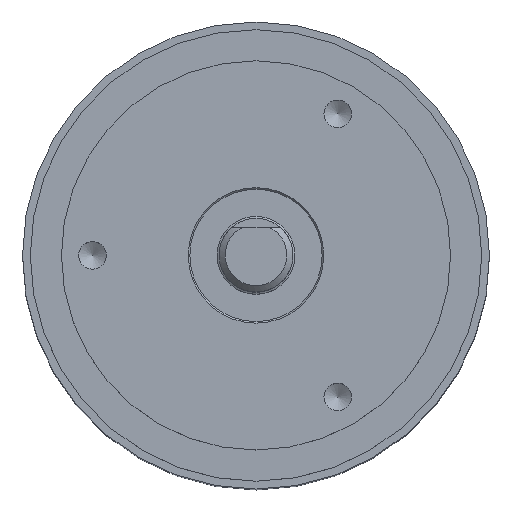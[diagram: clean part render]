
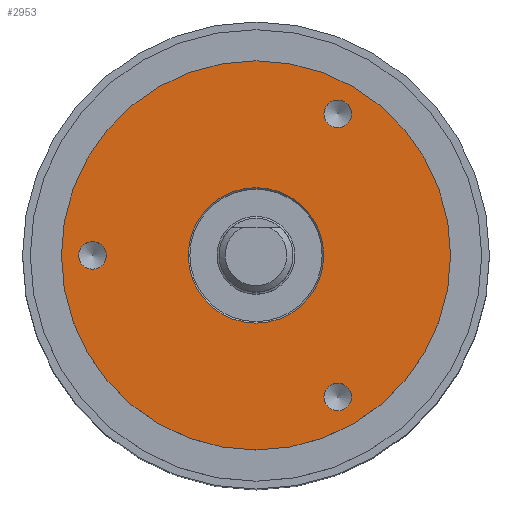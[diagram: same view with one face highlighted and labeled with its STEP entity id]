
A CAD part, top view. The second image highlights one B-rep face of the part: STEP entity #2953.
In plain terms, the highlighted planar face has unit normal (0, 0, 1).
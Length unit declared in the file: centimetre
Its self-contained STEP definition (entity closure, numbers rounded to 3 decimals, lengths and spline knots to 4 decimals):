
#466=PLANE('',#3239);
#582=VERTEX_POINT('',#3764);
#583=VERTEX_POINT('',#3767);
#584=VERTEX_POINT('',#3769);
#585=VERTEX_POINT('',#3771);
#586=VERTEX_POINT('',#3773);
#869=CIRCLE('',#3238,0.87);
#870=CIRCLE('',#3240,0.1773);
#871=CIRCLE('',#3241,0.1773);
#872=CIRCLE('',#3242,0.1773);
#873=CIRCLE('',#3243,2.5);
#1101=EDGE_CURVE('',#582,#582,#869,.T.);
#1102=EDGE_CURVE('',#583,#583,#870,.T.);
#1103=EDGE_CURVE('',#584,#584,#871,.T.);
#1104=EDGE_CURVE('',#585,#585,#872,.T.);
#1105=EDGE_CURVE('',#586,#586,#873,.T.);
#1459=ORIENTED_EDGE('',*,*,#1102,.T.);
#1460=ORIENTED_EDGE('',*,*,#1103,.T.);
#1461=ORIENTED_EDGE('',*,*,#1104,.T.);
#1462=ORIENTED_EDGE('',*,*,#1101,.F.);
#1463=ORIENTED_EDGE('',*,*,#1105,.T.);
#2151=EDGE_LOOP('',(#1459));
#2152=EDGE_LOOP('',(#1460));
#2153=EDGE_LOOP('',(#1461));
#2154=EDGE_LOOP('',(#1462));
#2155=EDGE_LOOP('',(#1463));
#2557=FACE_BOUND('',#2151,.T.);
#2558=FACE_BOUND('',#2152,.T.);
#2559=FACE_BOUND('',#2153,.T.);
#2560=FACE_BOUND('',#2154,.T.);
#2561=FACE_BOUND('',#2155,.T.);
#2953=ADVANCED_FACE('',(#2557,#2558,#2559,#2560,#2561),#466,.T.);
#3238=AXIS2_PLACEMENT_3D('',#3763,#4785,#4786);
#3239=AXIS2_PLACEMENT_3D('',#3765,#4787,$);
#3240=AXIS2_PLACEMENT_3D('',#3766,#4788,#4789);
#3241=AXIS2_PLACEMENT_3D('',#3768,#4790,#4791);
#3242=AXIS2_PLACEMENT_3D('',#3770,#4792,#4793);
#3243=AXIS2_PLACEMENT_3D('',#3772,#4794,#4795);
#3763=CARTESIAN_POINT('',(0.,0.,1.4));
#3764=CARTESIAN_POINT('',(0.,0.87,1.4));
#3765=CARTESIAN_POINT('',(0.,1.685,1.4));
#3766=CARTESIAN_POINT('',(1.05,1.8187,1.4));
#3767=CARTESIAN_POINT('',(1.05,1.9959,1.4));
#3768=CARTESIAN_POINT('',(1.05,-1.8187,1.4));
#3769=CARTESIAN_POINT('',(1.05,-1.6414,1.4));
#3770=CARTESIAN_POINT('',(-2.1,0.,1.4));
#3771=CARTESIAN_POINT('',(-2.1,0.1773,1.4));
#3772=CARTESIAN_POINT('',(0.,0.,1.4));
#3773=CARTESIAN_POINT('',(0.,2.5,1.4));
#4785=DIRECTION('',(0.,0.,1.));
#4786=DIRECTION('',(0.,0.87,0.));
#4787=DIRECTION('',(0.,0.,1.));
#4788=DIRECTION('',(0.,0.,-1.));
#4789=DIRECTION('',(0.,0.177,0.));
#4790=DIRECTION('',(0.,0.,-1.));
#4791=DIRECTION('',(0.,0.177,0.));
#4792=DIRECTION('',(0.,0.,-1.));
#4793=DIRECTION('',(0.,0.177,0.));
#4794=DIRECTION('',(0.,0.,1.));
#4795=DIRECTION('',(0.,2.5,0.));
